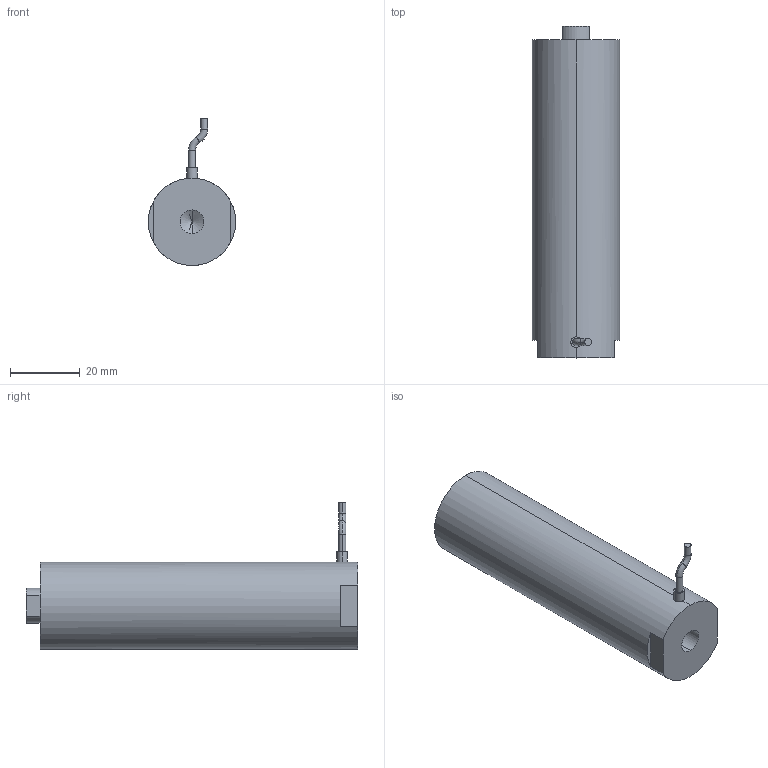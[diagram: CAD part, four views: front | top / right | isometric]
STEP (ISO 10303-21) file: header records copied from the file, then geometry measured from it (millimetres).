
FILE_DESCRIPTION (( 'STEP AP203' ), '1' );
FILE_NAME ('ﾄﾚﾂﾝﾎﾆﾊｽ80VS25.STEP', '2021-07-08T07:17:01', ( 'ﾎ｢ﾈ橆ﾃｻｧ' ), ( 'ﾎ｢ﾈ晥ｫﾋｾ' ), 'SwSTEP 2.0', 'SolidWorks 2016', '' );
FILE_SCHEMA (( 'CONFIG_CONTROL_DESIGN' ));
Products named in the file (1): 囀蹟恇宒80VS25
Bounding box: 25 x 95 x 42.06 mm (x, y, z)
Volume: 44298.4 mm3; surface area: 8755.5 mm2
Topology: 1 solids, 1 shells, 943 faces, 2555 edges, 1696 vertices
Faces by surface type: bspline 523, plane 305, cylinder 107, torus 4, cone 4
Entity records: 45118 total; most frequent: CARTESIAN_POINT 26036, ORIENTED_EDGE 5094, EDGE_CURVE 2547, DIRECTION 1931, B_SPLINE_CURVE_WITH_KNOTS 1728, VERTEX_POINT 1694, EDGE_LOOP 1031, ADVANCED_FACE 943
